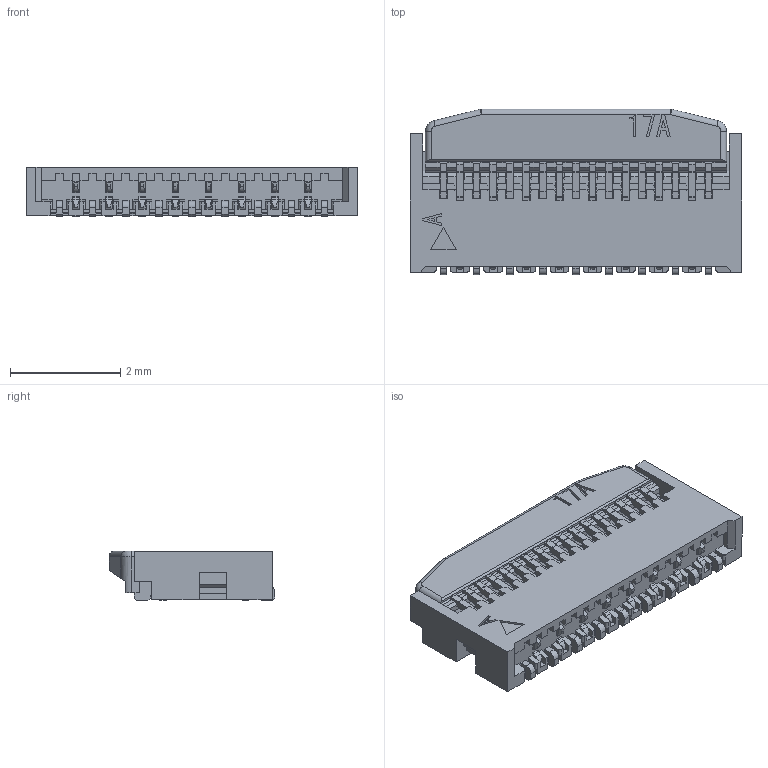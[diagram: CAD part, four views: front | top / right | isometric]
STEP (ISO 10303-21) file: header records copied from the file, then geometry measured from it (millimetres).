
FILE_DESCRIPTION (( 'STEP AP203' ), '1' );
FILE_NAME ('20527-017ExxxC ACT CLOSE STEP R5 ALL.STEP', '2017-04-25T01:37:29', ( '' ), ( '' ), 'SwSTEP 2.0', 'SolidWorks 2014', '' );
FILE_SCHEMA (( 'CONFIG_CONTROL_DESIGN' ));
Length unit declared in the file: millimetre
Products named in the file (1): 20527-017ExxxC ACT CLOSE STEP R5 ALL
Bounding box: 6 x 3 x 0.9 mm (x, y, z)
Volume: 11.8 mm3; surface area: 83.2 mm2
Topology: 1 solids, 1 shells, 1535 faces, 4763 edges, 3140 vertices
Faces by surface type: plane 1293, cylinder 237, sphere 2, torus 2, bspline 1
Entity records: 52580 total; most frequent: CARTESIAN_POINT 9717, ORIENTED_EDGE 9522, DIRECTION 8259, EDGE_CURVE 4761, VECTOR 4207, LINE 4207, VERTEX_POINT 3140, AXIS2_PLACEMENT_3D 2026
